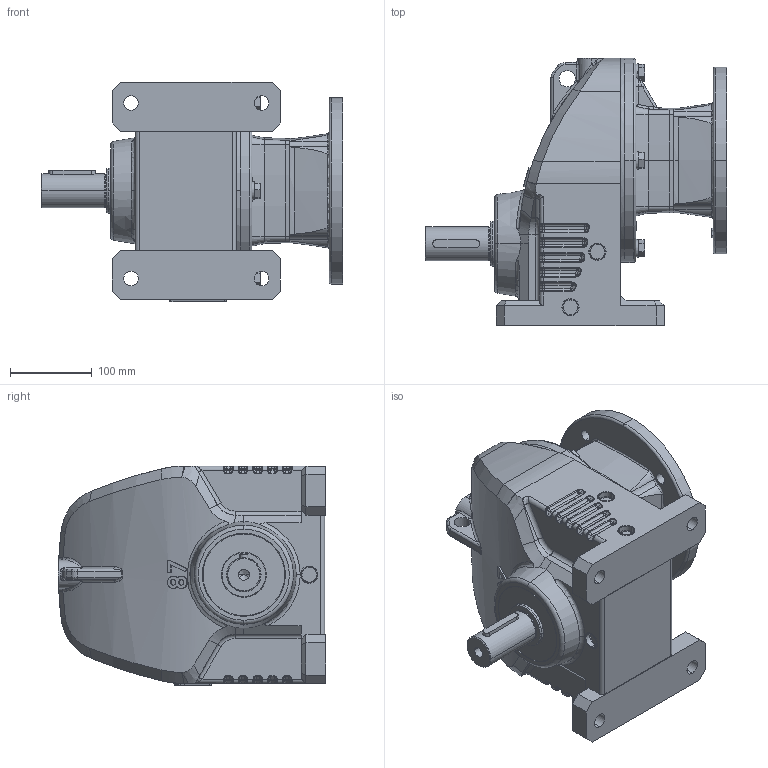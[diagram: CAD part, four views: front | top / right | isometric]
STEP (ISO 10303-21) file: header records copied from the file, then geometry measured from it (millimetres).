
FILE_DESCRIPTION (( 'STEP AP203' ), '1' );
FILE_NAME ('RX087HF-213TC.STEP', '2015-03-16T05:43:52', ( 'user' ), ( '' ), 'SwSTEP 2.0', 'SolidWorks 2012', '' );
FILE_SCHEMA (( 'CONFIG_CONTROL_DESIGN' ));
Length unit declared in the file: millimetre
Products named in the file (27): RX087HF-213TC; JSPC040050005A; PKD3_8057; PCA040_JIS B 2804 Shaft use 40; PBA6308_SKF - 6308 - 10,DE,NC,10_68; PCB100_PCB100; PSS055100121; PBA6309_SKF - 6309 - 10,DE,NC,10_68; JKGB09792L_JKGB09792L; 087ªkÄõ¤J¤O²Õ¦X213T_213.215TC-¡í22; PBA6211_SKF - 6211 - 14,DE,NC,14_68; PBA6210; PWS12; PTBA12040; P107_JKGA2227R2; PCA022_JIS B 2804 Shaft use 22; PKD0606022; PSS055080101; PTAA12035; KFGG213T; KNGH213Txx_KNGH213T22; JHGA08707; PJB04; PCA045; PKD1208025; KEGX087; JCHX087
Assembly tree (40 placements, depth 3):
  RX087HF-213TC
    JCHX087
    KEGX087
    PKD1208025
    PCA045
    PJB04  x5
    087ªkÄõ¤J¤O²Õ¦X213T_213.215TC-¡í22
      JHGA08707
      KNGH213Txx_KNGH213T22
      KFGG213T
      PTAA12035  x4
      PSS055080101
      PKD0606022
      PCA022_JIS B 2804 Shaft use 22
      P107_JKGA2227R2
      PTBA12040  x4
      PWS12  x4
      PBA6210
      PBA6211_SKF - 6211 - 14,DE,NC,14_68
      PJB04
    JKGB09792L_JKGB09792L
    PBA6309_SKF - 6309 - 10,DE,NC,10_68
    PSS055100121
    PCB100_PCB100
    PBA6308_SKF - 6308 - 10,DE,NC,10_68
    PCA040_JIS B 2804 Shaft use 40
    PKD3_8057
    JSPC040050005A
Bounding box: 369.5 x 327.01 x 269 mm (x, y, z)
Volume: 5597635.6 mm3; surface area: 1237414.4 mm2
Topology: 39 solids, 39 shells, 2058 faces, 5540 edges, 3456 vertices
Faces by surface type: cylinder 611, plane 574, torus 295, bspline 233, cone 217, sphere 128
Entity records: 81340 total; most frequent: CARTESIAN_POINT 33473, ORIENTED_EDGE 9748, DIRECTION 9045, EDGE_CURVE 4874, AXIS2_PLACEMENT_3D 3743, VERTEX_POINT 3084, CIRCLE 2081, EDGE_LOOP 2062
